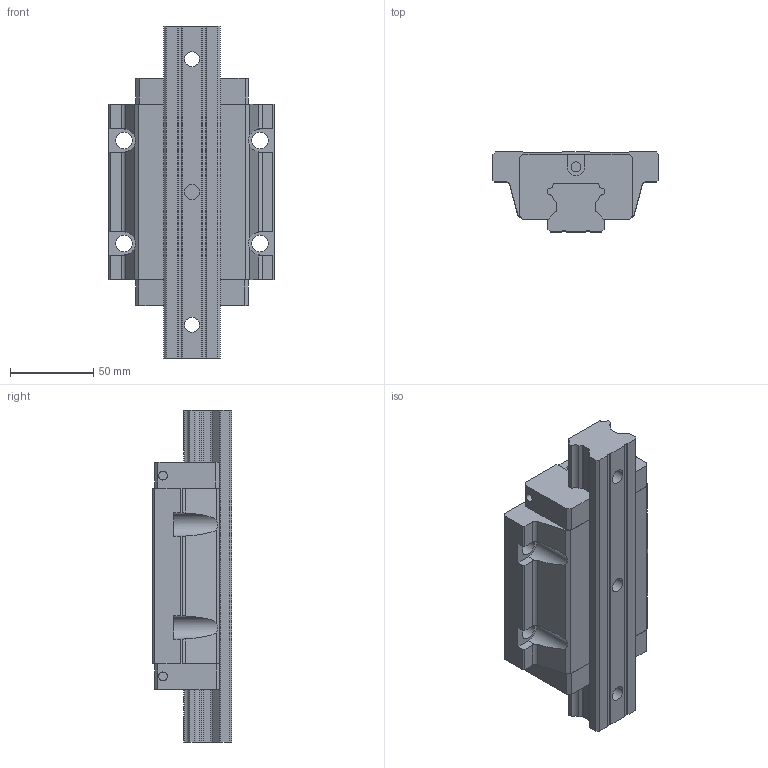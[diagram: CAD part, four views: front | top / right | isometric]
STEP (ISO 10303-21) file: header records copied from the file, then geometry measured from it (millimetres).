
FILE_DESCRIPTION((''),'2;1');
FILE_NAME('QHW35H-1_ASM_2_ASM','2008-07-11T',('tjchen'),(''),'PRO/ENGINEER BY PARAMETRIC TECHNOLOGY CORPORATION, 2004360','PRO/ENGINEER BY PARAMETRIC TECHNOLOGY CORPORATION, 2004360','');
FILE_SCHEMA(('CONFIG_CONTROL_DESIGN'));
Length unit declared in the file: millimetre
Products named in the file (4): QHW35HC_2; HGR35_1; QH35-EC; QHW35H-1_ASM_2_ASM
Assembly tree (4 placements, depth 2):
  QHW35H-1_ASM_2_ASM
    QHW35HC_2
    HGR35_1
    QH35-EC  x2
Bounding box: 100 x 48 x 200 mm (x, y, z)
Volume: 513963.2 mm3; surface area: 88424.4 mm2
Topology: 4 solids, 4 shells, 241 faces, 676 edges, 452 vertices
Faces by surface type: plane 163, cylinder 78
Entity records: 6485 total; most frequent: CARTESIAN_POINT 1201, ORIENTED_EDGE 1100, DIRECTION 1060, EDGE_CURVE 550, VECTOR 404, LINE 404, VERTEX_POINT 368, AXIS2_PLACEMENT_3D 328
